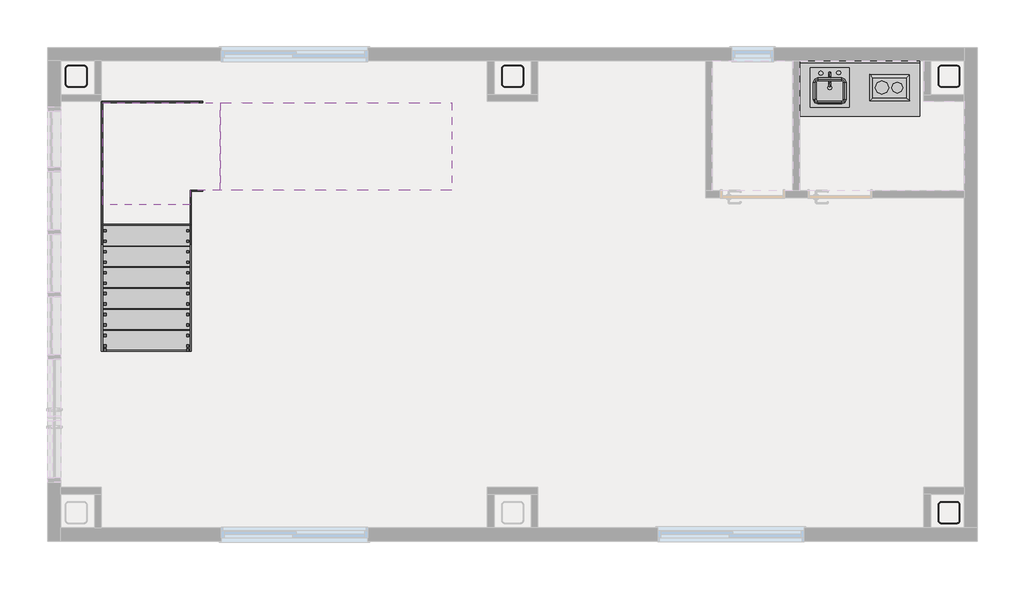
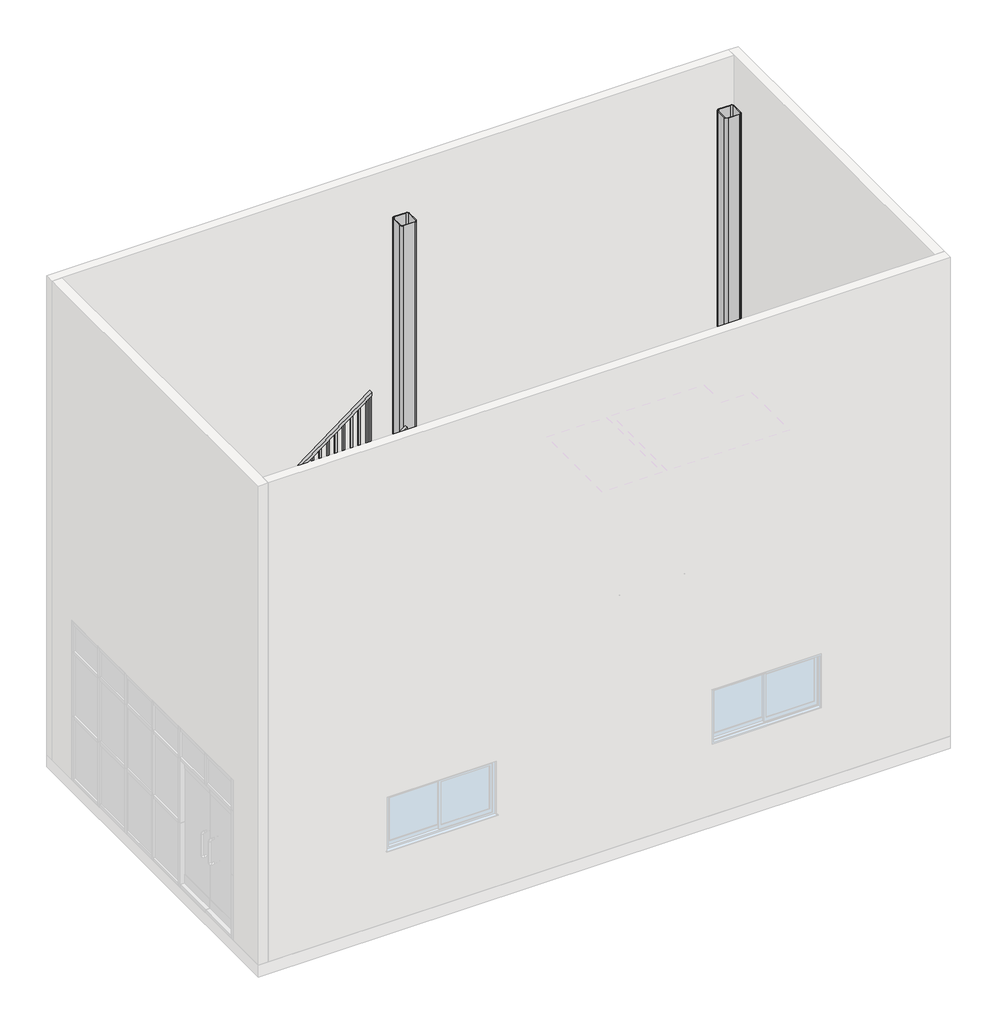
# One storey, part 2 of 2: 7 members, 4 columns, 2 proxies, 2 railings, 2 stair flights, 1 flow terminal, 1 furniture element, 1 slab.
"""IFC4 building model written with IfcOpenShell, lengths in millimetres."""

from ifc_helpers import new_model, si_unit, frame, origin, place, context, project, spatial, polyline, outline, extrude, faceted_brep, transform, mapped, element, save
from components import proxy_1372mm_902c12d3, proxy_305_x_457mm_75991893, hss250x250x12_d809ddac, flow_terminal_450_x_450mm_65598b4f, furniture_600mm_61525606, slab_593adf1e, stair_flight_b28b8e51, stair_flight_15dfc8d3

model = new_model("IFC4")

# Units and contexts
model_context = context("Model", 3, world=origin())
ifc_project = project(units=[si_unit("LENGTHUNIT", "METRE", prefix="MILLI")], contexts=[model_context])

# Site, building, storey
site = spatial("IfcSite", under=ifc_project)
building = spatial("IfcBuilding", under=site)
storey = spatial("IfcBuildingStorey", under=building, Name="1階", Elevation=200.0)

# Proxies
placement = place(None, origin())
proxy_1372mm_shape = proxy_1372mm_902c12d3(model_context)
element("IfcBuildingElementProxy", 1, Name="システムキッチン - スケール(小) - 3D : 1372mm", ObjectType="システムキッチン - スケール(小) - 3D : 1372mm", at=placement, inside=storey, context=model_context, shape_type="MappedRepresentation", body=[
    mapped(proxy_1372mm_shape, transform((3909.3742386, 2761.0382733, 200.0), x_axis=(1.0, 0.0, 0.0), y_axis=(0.0, 1.0, 0.0), z_axis=(0.0, 0.0, 1.0))),
])
proxy_305_x_457mm_shape = proxy_305_x_457mm_75991893(model_context)
element("IfcBuildingElementProxy", 2, Name="レンジ台-2 ユニット : 305 x 457mm", ObjectType="レンジ台-2 ユニット : 305 x 457mm", at=placement, inside=storey, context=model_context, shape_type="MappedRepresentation", body=[
    mapped(proxy_305_x_457mm_shape, transform((4301.3367391, 2379.8382733, 240.0), x_axis=(0.0, 1.0, 0.0), y_axis=(-1.0, 0.0, 0.0), z_axis=(0.0, 0.0, 1.0))),
])

# Columns
hss250x250x12_shape = hss250x250x12_d809ddac(model_context)
element("IfcColumn", 3, ObjectType="正方型鋼管-柱 : HSS250x250x12", at=placement, inside=storey, context=model_context, shape_type="MappedRepresentation", body=[
    mapped(hss250x250x12_shape, transform((-5047.3880564, 2586.0382733, 0.0), x_axis=(-1.0, 0.0, 0.0), y_axis=(0.0, -1.0, 0.0), z_axis=(0.0, 0.0, 1.0))),
])
element("IfcColumn", 4, ObjectType="正方型鋼管-柱 : HSS250x250x12", at=placement, inside=storey, context=model_context, shape_type="MappedRepresentation", body=[
    mapped(hss250x250x12_shape, transform((-47.3880564, 2586.0382733, 0.0), x_axis=(-1.0, 0.0, 0.0), y_axis=(0.0, -1.0, 0.0), z_axis=(0.0, 0.0, 1.0))),
])
element("IfcColumn", 5, ObjectType="正方型鋼管-柱 : HSS250x250x12", at=placement, inside=storey, context=model_context, shape_type="MappedRepresentation", body=[
    mapped(hss250x250x12_shape, transform((4952.6119436, -2413.9617267, 0.0), x_axis=(-1.0, 0.0, 0.0), y_axis=(0.0, -1.0, 0.0), z_axis=(0.0, 0.0, 1.0))),
])
element("IfcColumn", 6, ObjectType="正方型鋼管-柱 : HSS250x250x12", at=placement, inside=storey, context=model_context, shape_type="MappedRepresentation", body=[
    mapped(hss250x250x12_shape, transform((4952.6119436, 2586.0382733, 0.0), x_axis=(-1.0, 0.0, 0.0), y_axis=(0.0, -1.0, 0.0), z_axis=(0.0, 0.0, 1.0))),
])

# Flow terminal
flow_terminal_450_x_450mm_shape = flow_terminal_450_x_450mm_65598b4f(model_context)
element("IfcFlowTerminal", 7, ObjectType="シンク キッチン - アイランド : 450 x 450mm", at=placement, inside=storey, context=model_context, shape_type="MappedRepresentation", body=[
    mapped(flow_terminal_450_x_450mm_shape, transform((3569.422703, 2453.6928722, 240.0), x_axis=(1.0, 0.0, 0.0), y_axis=(0.0, 1.0, 0.0), z_axis=(0.0, 0.0, 1.0))),
])

# Furniture
furniture_600mm_shape = furniture_600mm_61525606(model_context)
element("IfcFurniture", 8, ObjectType="カウンタ シンク開口付 : 600mm", at=placement, inside=storey, context=model_context, shape_type="MappedRepresentation", body=[
    mapped(furniture_600mm_shape, transform((4442.5742386, 2761.0382733, 240.0), x_axis=(1.0, 0.0, 0.0), y_axis=(0.0, 1.0, 0.0), z_axis=(0.0, 0.0, 1.0))),
])

# Members
element("IfcMember", 9, ObjectType="側桁 - メタル - 15 mm 幅 50 mm 奥行き", at=placement, inside=storey, context=model_context, shape_type="SweptSolid", body=[
    extrude(outline(polyline([(-563.9617267, 200.0), (-563.9617267, 486.25), (1021.0382733, 1675.0), (1121.0382733, 1375.0), (-445.6283934, 200.0), (-563.9617267, 200.0)])), frame((-4757.8880564, 0.0, 0.0), z_axis=(1.0, 0.0, 0.0), x_axis=(0.0, 1.0, 0.0)), (0.0, 0.0, 1.0), 15.0),
])
element("IfcMember", 10, ObjectType="側桁 - メタル - 15 mm 幅 50 mm 奥行き", at=placement, inside=storey, context=model_context, shape_type="SweptSolid", body=[
    extrude(outline(polyline([(-563.9617267, 200.0), (-563.9617267, 486.25), (1021.0382733, 1675.0), (1121.0382733, 1375.0), (-445.6283934, 200.0), (-563.9617267, 200.0)])), frame((-3742.8880564, 0.0, 0.0), z_axis=(1.0, 0.0, 0.0), x_axis=(0.0, 1.0, 0.0)), (0.0, 0.0, 1.0), 15.0),
])
element("IfcMember", 11, ObjectType="側桁 - メタル - 15 mm 幅 50 mm 奥行き", at=placement, inside=storey, context=model_context, shape_type="SweptSolid", body=[
    extrude(outline(polyline([(1675.0, -3732.3880564), (1375.0, -3632.3880564), (3531.25, -757.3880564), (3906.25, -757.3880564), (1675.0, -3732.3880564)])), frame((0.0, 2281.5382733, 0.0), z_axis=(0.0, 1.0, 0.0), x_axis=(0.0, 0.0, 1.0)), (0.0, 0.0, 1.0), 15.0),
])
element("IfcMember", 12, ObjectType="側桁 - メタル - 15 mm 幅 50 mm 奥行き", at=placement, inside=storey, context=model_context, shape_type="SweptSolid", body=[
    extrude(outline(polyline([(1678.375, -3727.8880564), (1375.0, -3727.8880564), (1375.0, -3632.3880564), (3531.25, -757.3880564), (3906.25, -757.3880564), (1678.375, -3727.8880564)])), frame((0.0, 1266.5382733, 0.0), z_axis=(0.0, 1.0, 0.0), x_axis=(0.0, 0.0, 1.0)), (0.0, 0.0, 1.0), 15.0),
])
element("IfcMember", 13, ObjectType="側桁 - メタル - 15 mm 幅 50 mm 奥行き", at=placement, inside=storey, context=model_context, shape_type="Brep", body=[
    faceted_brep([(-3732.3880564, 2281.5382733, 1675.0), (-3732.3880564, 2296.5382733, 1675.0), (-4757.8880564, 2296.5382733, 1675.0), (-4742.8880564, 2281.5382733, 1675.0), (-3632.3880564, 2281.5382733, 1375.0), (-4742.8880564, 2281.5382733, 1375.0), (-3632.3880564, 2296.5382733, 1375.0), (-4757.8880564, 2296.5382733, 1375.0)], [[[0, 1, 2, 3]], [[4, 0, 3, 5]], [[6, 4, 5, 7]], [[1, 6, 7, 2]], [[1, 0, 4, 6]], [[2, 7, 5, 3]]]),
])
element("IfcMember", 14, ObjectType="側桁 - メタル - 15 mm 幅 50 mm 奥行き", at=placement, inside=storey, context=model_context, shape_type="Brep", body=[
    faceted_brep([(-4742.8880564, 2281.5382733, 1675.0), (-4757.8880564, 2296.5382733, 1675.0), (-4757.8880564, 1021.0382733, 1675.0), (-4742.8880564, 1021.0382733, 1675.0), (-4742.8880564, 2281.5382733, 1375.0), (-4742.8880564, 1121.0382733, 1375.0), (-4757.8880564, 2296.5382733, 1375.0), (-4757.8880564, 1121.0382733, 1375.0)], [[[0, 1, 2, 3]], [[4, 0, 3, 5]], [[6, 4, 5, 7]], [[1, 6, 7, 2]], [[1, 0, 4, 6]], [[2, 7, 5, 3]]]),
])
element("IfcMember", 15, ObjectType="側桁 - メタル - 15 mm 幅 50 mm 奥行き", at=placement, inside=storey, context=model_context, shape_type="SweptSolid", body=[
    extrude(outline(polyline([(1121.0382733, 1375.0), (1021.0382733, 1675.0), (1281.5382733, 1675.0), (1281.5382733, 1375.0), (1121.0382733, 1375.0)])), frame((-3742.8880564, 0.0, 0.0), z_axis=(1.0, 0.0, 0.0), x_axis=(0.0, 1.0, 0.0)), (0.0, 0.0, 1.0), 15.0),
])

# Railings
element("IfcRailing", 16, ObjectType="1100mm", at=placement, inside=storey, context=model_context, shape_type="SolidModel", body=[
    faceted_brep([(-3793.2880564, -563.9617267, 1480.0), (-3793.2880564, -563.9617267, 1417.5), (-3743.2880564, -563.9617267, 1417.5), (-3743.2880564, -563.9617267, 1480.0), (-3793.2880564, 1116.0382733, 2740.0), (-3793.2880564, 1132.7049399, 2690.0), (-3743.2880564, 1132.7049399, 2690.0), (-3743.2880564, 1116.0382733, 2740.0), (-3793.2880564, 1331.9382733, 2740.0), (-3793.2880564, 1331.9382733, 2690.0), (-3743.2880564, 1281.9382733, 2690.0), (-3743.2880564, 1281.9382733, 2740.0), (-3637.3880564, 1331.9382733, 2740.0), (-3620.7213898, 1331.9382733, 2690.0), (-3620.7213898, 1281.9382733, 2690.0), (-3637.3880564, 1281.9382733, 2740.0), (-3397.3880564, 1331.9382733, 2920.0), (-3367.3880564, 1331.9382733, 2880.0), (-3367.3880564, 1281.9382733, 2880.0), (-3397.3880564, 1281.9382733, 2920.0), (-757.3880564, 1331.9382733, 4900.0), (-757.3880564, 1281.9382733, 4900.0), (-757.3880564, 1281.9382733, 4837.5), (-757.3880564, 1331.9382733, 4837.5)], [[[0, 1, 2, 3]], [[1, 0, 4, 5]], [[2, 1, 5, 6]], [[3, 2, 6, 7]], [[0, 3, 7, 4]], [[5, 4, 8, 9]], [[6, 5, 9, 10]], [[7, 6, 10, 11]], [[4, 7, 11, 8]], [[9, 8, 12, 13]], [[10, 9, 13, 14]], [[11, 10, 14, 15]], [[8, 11, 15, 12]], [[13, 12, 16, 17]], [[14, 13, 17, 18]], [[15, 14, 18, 19]], [[12, 15, 19, 16]], [[20, 21, 22, 23]], [[17, 16, 20, 23]], [[18, 17, 23, 22]], [[19, 18, 22, 21]], [[16, 19, 21, 20]]]),
    extrude(outline(polyline([(4783.125, -829.8880564), (3620.0, -829.8880564), (3620.0, -804.8880564), (4801.875, -804.8880564), (4783.125, -829.8880564)])), frame((0.0, 1294.4382733, 0.0), z_axis=(0.0, 1.0, 0.0), x_axis=(0.0, 0.0, 1.0)), (0.0, 0.0, 1.0), 25.0),
    extrude(outline(polyline([(4693.125, -949.8880564), (3620.0, -949.8880564), (3620.0, -924.8880564), (4711.875, -924.8880564), (4693.125, -949.8880564)])), frame((0.0, 1294.4382733, 0.0), z_axis=(0.0, 1.0, 0.0), x_axis=(0.0, 0.0, 1.0)), (0.0, 0.0, 1.0), 25.0),
    extrude(outline(polyline([(4603.125, -1069.8880564), (3440.0, -1069.8880564), (3440.0, -1044.8880564), (4621.875, -1044.8880564), (4603.125, -1069.8880564)])), frame((0.0, 1294.4382733, 0.0), z_axis=(0.0, 1.0, 0.0), x_axis=(0.0, 0.0, 1.0)), (0.0, 0.0, 1.0), 25.0),
    extrude(outline(polyline([(4513.125, -1189.8880564), (3440.0, -1189.8880564), (3440.0, -1164.8880564), (4531.875, -1164.8880564), (4513.125, -1189.8880564)])), frame((0.0, 1294.4382733, 0.0), z_axis=(0.0, 1.0, 0.0), x_axis=(0.0, 0.0, 1.0)), (0.0, 0.0, 1.0), 25.0),
    extrude(outline(polyline([(4423.125, -1309.8880564), (3260.0, -1309.8880564), (3260.0, -1284.8880564), (4441.875, -1284.8880564), (4423.125, -1309.8880564)])), frame((0.0, 1294.4382733, 0.0), z_axis=(0.0, 1.0, 0.0), x_axis=(0.0, 0.0, 1.0)), (0.0, 0.0, 1.0), 25.0),
    extrude(outline(polyline([(4333.125, -1429.8880564), (3260.0, -1429.8880564), (3260.0, -1404.8880564), (4351.875, -1404.8880564), (4333.125, -1429.8880564)])), frame((0.0, 1294.4382733, 0.0), z_axis=(0.0, 1.0, 0.0), x_axis=(0.0, 0.0, 1.0)), (0.0, 0.0, 1.0), 25.0),
    extrude(outline(polyline([(4243.125, -1549.8880564), (3080.0, -1549.8880564), (3080.0, -1524.8880564), (4261.875, -1524.8880564), (4243.125, -1549.8880564)])), frame((0.0, 1294.4382733, 0.0), z_axis=(0.0, 1.0, 0.0), x_axis=(0.0, 0.0, 1.0)), (0.0, 0.0, 1.0), 25.0),
    extrude(outline(polyline([(4153.125, -1669.8880564), (3080.0, -1669.8880564), (3080.0, -1644.8880564), (4171.875, -1644.8880564), (4153.125, -1669.8880564)])), frame((0.0, 1294.4382733, 0.0), z_axis=(0.0, 1.0, 0.0), x_axis=(0.0, 0.0, 1.0)), (0.0, 0.0, 1.0), 25.0),
    extrude(outline(polyline([(4063.125, -1789.8880564), (2900.0, -1789.8880564), (2900.0, -1764.8880564), (4081.875, -1764.8880564), (4063.125, -1789.8880564)])), frame((0.0, 1294.4382733, 0.0), z_axis=(0.0, 1.0, 0.0), x_axis=(0.0, 0.0, 1.0)), (0.0, 0.0, 1.0), 25.0),
    extrude(outline(polyline([(3973.125, -1909.8880564), (2900.0, -1909.8880564), (2900.0, -1884.8880564), (3991.875, -1884.8880564), (3973.125, -1909.8880564)])), frame((0.0, 1294.4382733, 0.0), z_axis=(0.0, 1.0, 0.0), x_axis=(0.0, 0.0, 1.0)), (0.0, 0.0, 1.0), 25.0),
    extrude(outline(polyline([(3883.125, -2029.8880564), (2720.0, -2029.8880564), (2720.0, -2004.8880564), (3901.875, -2004.8880564), (3883.125, -2029.8880564)])), frame((0.0, 1294.4382733, 0.0), z_axis=(0.0, 1.0, 0.0), x_axis=(0.0, 0.0, 1.0)), (0.0, 0.0, 1.0), 25.0),
    extrude(outline(polyline([(3793.125, -2149.8880564), (2720.0, -2149.8880564), (2720.0, -2124.8880564), (3811.875, -2124.8880564), (3793.125, -2149.8880564)])), frame((0.0, 1294.4382733, 0.0), z_axis=(0.0, 1.0, 0.0), x_axis=(0.0, 0.0, 1.0)), (0.0, 0.0, 1.0), 25.0),
    extrude(outline(polyline([(3703.125, -2269.8880564), (2540.0, -2269.8880564), (2540.0, -2244.8880564), (3721.875, -2244.8880564), (3703.125, -2269.8880564)])), frame((0.0, 1294.4382733, 0.0), z_axis=(0.0, 1.0, 0.0), x_axis=(0.0, 0.0, 1.0)), (0.0, 0.0, 1.0), 25.0),
    extrude(outline(polyline([(3613.125, -2389.8880564), (2540.0, -2389.8880564), (2540.0, -2364.8880564), (3631.875, -2364.8880564), (3613.125, -2389.8880564)])), frame((0.0, 1294.4382733, 0.0), z_axis=(0.0, 1.0, 0.0), x_axis=(0.0, 0.0, 1.0)), (0.0, 0.0, 1.0), 25.0),
    extrude(outline(polyline([(3523.125, -2509.8880564), (2360.0, -2509.8880564), (2360.0, -2484.8880564), (3541.875, -2484.8880564), (3523.125, -2509.8880564)])), frame((0.0, 1294.4382733, 0.0), z_axis=(0.0, 1.0, 0.0), x_axis=(0.0, 0.0, 1.0)), (0.0, 0.0, 1.0), 25.0),
    extrude(outline(polyline([(3433.125, -2629.8880564), (2360.0, -2629.8880564), (2360.0, -2604.8880564), (3451.875, -2604.8880564), (3433.125, -2629.8880564)])), frame((0.0, 1294.4382733, 0.0), z_axis=(0.0, 1.0, 0.0), x_axis=(0.0, 0.0, 1.0)), (0.0, 0.0, 1.0), 25.0),
    extrude(outline(polyline([(3343.125, -2749.8880564), (2180.0, -2749.8880564), (2180.0, -2724.8880564), (3361.875, -2724.8880564), (3343.125, -2749.8880564)])), frame((0.0, 1294.4382733, 0.0), z_axis=(0.0, 1.0, 0.0), x_axis=(0.0, 0.0, 1.0)), (0.0, 0.0, 1.0), 25.0),
    extrude(outline(polyline([(3253.125, -2869.8880564), (2180.0, -2869.8880564), (2180.0, -2844.8880564), (3271.875, -2844.8880564), (3253.125, -2869.8880564)])), frame((0.0, 1294.4382733, 0.0), z_axis=(0.0, 1.0, 0.0), x_axis=(0.0, 0.0, 1.0)), (0.0, 0.0, 1.0), 25.0),
    extrude(outline(polyline([(3163.125, -2989.8880564), (2000.0, -2989.8880564), (2000.0, -2964.8880564), (3181.875, -2964.8880564), (3163.125, -2989.8880564)])), frame((0.0, 1294.4382733, 0.0), z_axis=(0.0, 1.0, 0.0), x_axis=(0.0, 0.0, 1.0)), (0.0, 0.0, 1.0), 25.0),
    extrude(outline(polyline([(3073.125, -3109.8880564), (2000.0, -3109.8880564), (2000.0, -3084.8880564), (3091.875, -3084.8880564), (3073.125, -3109.8880564)])), frame((0.0, 1294.4382733, 0.0), z_axis=(0.0, 1.0, 0.0), x_axis=(0.0, 0.0, 1.0)), (0.0, 0.0, 1.0), 25.0),
    extrude(outline(polyline([(2983.125, -3229.8880564), (1820.0, -3229.8880564), (1820.0, -3204.8880564), (3001.875, -3204.8880564), (2983.125, -3229.8880564)])), frame((0.0, 1294.4382733, 0.0), z_axis=(0.0, 1.0, 0.0), x_axis=(0.0, 0.0, 1.0)), (0.0, 0.0, 1.0), 25.0),
    extrude(outline(polyline([(2893.125, -3349.8880564), (1820.0, -3349.8880564), (1820.0, -3324.8880564), (2911.875, -3324.8880564), (2893.125, -3349.8880564)])), frame((0.0, 1294.4382733, 0.0), z_axis=(0.0, 1.0, 0.0), x_axis=(0.0, 0.0, 1.0)), (0.0, 0.0, 1.0), 25.0),
    extrude(outline(polyline([(2794.95, -3480.7880564), (1640.0, -3480.7880564), (1640.0, -3455.7880564), (2813.7, -3455.7880564), (2794.95, -3480.7880564)])), frame((0.0, 1294.4382733, 0.0), z_axis=(0.0, 1.0, 0.0), x_axis=(0.0, 0.0, 1.0)), (0.0, 0.0, 1.0), 25.0),
    extrude(outline(polyline([(2704.95, -3600.7880564), (1640.0, -3600.7880564), (1640.0, -3575.7880564), (2723.7, -3575.7880564), (2704.95, -3600.7880564)])), frame((0.0, 1294.4382733, 0.0), z_axis=(0.0, 1.0, 0.0), x_axis=(0.0, 0.0, 1.0)), (0.0, 0.0, 1.0), 25.0),
    extrude(outline(polyline([(-3720.7880564, 1294.4382733), (-3720.7880564, 1319.4382733), (-3695.7880564, 1319.4382733), (-3695.7880564, 1294.4382733), (-3720.7880564, 1294.4382733)])), frame((0.0, 0.0, 1640.0), z_axis=(0.0, 0.0, 1.0), x_axis=(1.0, 0.0, 0.0)), (0.0, 0.0, 1.0), 1050.0),
    extrude(outline(polyline([(-3755.7880564, 1283.5382733), (-3780.7880564, 1283.5382733), (-3780.7880564, 1308.5382733), (-3755.7880564, 1308.5382733), (-3755.7880564, 1283.5382733)])), frame((0.0, 0.0, 1640.0), z_axis=(0.0, 0.0, 1.0), x_axis=(1.0, 0.0, 0.0)), (0.0, 0.0, 1.0), 1050.0),
    extrude(outline(polyline([(-3755.7880564, 1163.5382733), (-3780.7880564, 1163.5382733), (-3780.7880564, 1188.5382733), (-3755.7880564, 1188.5382733), (-3755.7880564, 1163.5382733)])), frame((0.0, 0.0, 1640.0), z_axis=(0.0, 0.0, 1.0), x_axis=(1.0, 0.0, 0.0)), (0.0, 0.0, 1.0), 1050.0),
    extrude(outline(polyline([(1043.5382733, 1460.0), (1043.5382733, 2623.125), (1068.5382733, 2641.875), (1068.5382733, 1460.0), (1043.5382733, 1460.0)])), frame((-3780.7880564, 0.0, 0.0), z_axis=(1.0, 0.0, 0.0), x_axis=(0.0, 1.0, 0.0)), (0.0, 0.0, 1.0), 25.0),
    extrude(outline(polyline([(923.5382733, 1460.0), (923.5382733, 2533.125), (948.5382733, 2551.875), (948.5382733, 1460.0), (923.5382733, 1460.0)])), frame((-3780.7880564, 0.0, 0.0), z_axis=(1.0, 0.0, 0.0), x_axis=(0.0, 1.0, 0.0)), (0.0, 0.0, 1.0), 25.0),
    extrude(outline(polyline([(803.5382733, 1280.0), (803.5382733, 2443.125), (828.5382733, 2461.875), (828.5382733, 1280.0), (803.5382733, 1280.0)])), frame((-3780.7880564, 0.0, 0.0), z_axis=(1.0, 0.0, 0.0), x_axis=(0.0, 1.0, 0.0)), (0.0, 0.0, 1.0), 25.0),
    extrude(outline(polyline([(683.5382733, 1280.0), (683.5382733, 2353.125), (708.5382733, 2371.875), (708.5382733, 1280.0), (683.5382733, 1280.0)])), frame((-3780.7880564, 0.0, 0.0), z_axis=(1.0, 0.0, 0.0), x_axis=(0.0, 1.0, 0.0)), (0.0, 0.0, 1.0), 25.0),
    extrude(outline(polyline([(563.5382733, 1100.0), (563.5382733, 2263.125), (588.5382733, 2281.875), (588.5382733, 1100.0), (563.5382733, 1100.0)])), frame((-3780.7880564, 0.0, 0.0), z_axis=(1.0, 0.0, 0.0), x_axis=(0.0, 1.0, 0.0)), (0.0, 0.0, 1.0), 25.0),
    extrude(outline(polyline([(443.5382733, 1100.0), (443.5382733, 2173.125), (468.5382733, 2191.875), (468.5382733, 1100.0), (443.5382733, 1100.0)])), frame((-3780.7880564, 0.0, 0.0), z_axis=(1.0, 0.0, 0.0), x_axis=(0.0, 1.0, 0.0)), (0.0, 0.0, 1.0), 25.0),
    extrude(outline(polyline([(323.5382733, 920.0), (323.5382733, 2083.125), (348.5382733, 2101.875), (348.5382733, 920.0), (323.5382733, 920.0)])), frame((-3780.7880564, 0.0, 0.0), z_axis=(1.0, 0.0, 0.0), x_axis=(0.0, 1.0, 0.0)), (0.0, 0.0, 1.0), 25.0),
    extrude(outline(polyline([(203.5382733, 920.0), (203.5382733, 1993.125), (228.5382733, 2011.875), (228.5382733, 920.0), (203.5382733, 920.0)])), frame((-3780.7880564, 0.0, 0.0), z_axis=(1.0, 0.0, 0.0), x_axis=(0.0, 1.0, 0.0)), (0.0, 0.0, 1.0), 25.0),
    extrude(outline(polyline([(83.5382733, 740.0), (83.5382733, 1903.125), (108.5382733, 1921.875), (108.5382733, 740.0), (83.5382733, 740.0)])), frame((-3780.7880564, 0.0, 0.0), z_axis=(1.0, 0.0, 0.0), x_axis=(0.0, 1.0, 0.0)), (0.0, 0.0, 1.0), 25.0),
    extrude(outline(polyline([(-36.4617267, 740.0), (-36.4617267, 1813.125), (-11.4617267, 1831.875), (-11.4617267, 740.0), (-36.4617267, 740.0)])), frame((-3780.7880564, 0.0, 0.0), z_axis=(1.0, 0.0, 0.0), x_axis=(0.0, 1.0, 0.0)), (0.0, 0.0, 1.0), 25.0),
    extrude(outline(polyline([(-156.4617267, 560.0), (-156.4617267, 1723.125), (-131.4617267, 1741.875), (-131.4617267, 560.0), (-156.4617267, 560.0)])), frame((-3780.7880564, 0.0, 0.0), z_axis=(1.0, 0.0, 0.0), x_axis=(0.0, 1.0, 0.0)), (0.0, 0.0, 1.0), 25.0),
    extrude(outline(polyline([(-276.4617267, 560.0), (-276.4617267, 1633.125), (-251.4617267, 1651.875), (-251.4617267, 560.0), (-276.4617267, 560.0)])), frame((-3780.7880564, 0.0, 0.0), z_axis=(1.0, 0.0, 0.0), x_axis=(0.0, 1.0, 0.0)), (0.0, 0.0, 1.0), 25.0),
    extrude(outline(polyline([(-396.4617267, 380.0), (-396.4617267, 1543.125), (-371.4617267, 1561.875), (-371.4617267, 380.0), (-396.4617267, 380.0)])), frame((-3780.7880564, 0.0, 0.0), z_axis=(1.0, 0.0, 0.0), x_axis=(0.0, 1.0, 0.0)), (0.0, 0.0, 1.0), 25.0),
    extrude(outline(polyline([(-516.4617267, 380.0), (-516.4617267, 1453.125), (-491.4617267, 1471.875), (-491.4617267, 380.0), (-516.4617267, 380.0)])), frame((-3780.7880564, 0.0, 0.0), z_axis=(1.0, 0.0, 0.0), x_axis=(0.0, 1.0, 0.0)), (0.0, 0.0, 1.0), 25.0),
    extrude(outline(polyline([(2848.125, -3409.8880564), (1640.0, -3409.8880564), (1640.0, -3384.8880564), (2866.875, -3384.8880564), (2848.125, -3409.8880564)])), frame((0.0, 1294.4382733, 0.0), z_axis=(0.0, 1.0, 0.0), x_axis=(0.0, 0.0, 1.0)), (0.0, 0.0, 1.0), 25.0),
    extrude(outline(polyline([(-3755.7880564, 1294.4382733), (-3780.7880564, 1294.4382733), (-3780.7880564, 1319.4382733), (-3755.7880564, 1319.4382733), (-3755.7880564, 1294.4382733)])), frame((0.0, 0.0, 1640.0), z_axis=(0.0, 0.0, 1.0), x_axis=(1.0, 0.0, 0.0)), (0.0, 0.0, 1.0), 1050.0),
    extrude(outline(polyline([(1103.5382733, 1640.0), (1103.5382733, 2668.125), (1128.5382733, 2686.875), (1128.5382733, 1640.0), (1103.5382733, 1640.0)])), frame((-3780.7880564, 0.0, 0.0), z_axis=(1.0, 0.0, 0.0), x_axis=(0.0, 1.0, 0.0)), (0.0, 0.0, 1.0), 25.0),
    extrude(outline(polyline([(4818.75, -782.3880564), (3620.0, -782.3880564), (3620.0, -757.3880564), (4837.5, -757.3880564), (4818.75, -782.3880564)])), frame((0.0, 1294.4382733, 0.0), z_axis=(0.0, 1.0, 0.0), x_axis=(0.0, 0.0, 1.0)), (0.0, 0.0, 1.0), 25.0),
    extrude(outline(polyline([(-563.9617267, 380.0), (-563.9617267, 1417.5), (-538.9617267, 1436.25), (-538.9617267, 380.0), (-563.9617267, 380.0)])), frame((-3780.7880564, 0.0, 0.0), z_axis=(1.0, 0.0, 0.0), x_axis=(0.0, 1.0, 0.0)), (0.0, 0.0, 1.0), 25.0),
])
element("IfcRailing", 17, ObjectType="1100mm", at=placement, inside=storey, context=model_context, shape_type="SolidModel", body=[
    faceted_brep([(-4742.4880564, -563.9617267, 1480.0), (-4742.4880564, -563.9617267, 1417.5), (-4692.4880564, -563.9617267, 1417.5), (-4692.4880564, -563.9617267, 1480.0), (-4742.4880564, 1116.0382733, 2740.0), (-4742.4880564, 1132.7049399, 2690.0), (-4692.4880564, 1132.7049399, 2690.0), (-4692.4880564, 1116.0382733, 2740.0), (-4742.4880564, 2281.1382733, 2740.0), (-4742.4880564, 2281.1382733, 2690.0), (-4692.4880564, 2231.1382733, 2690.0), (-4692.4880564, 2231.1382733, 2740.0), (-3637.3880564, 2281.1382733, 2740.0), (-3620.7213898, 2281.1382733, 2690.0), (-3620.7213898, 2231.1382733, 2690.0), (-3637.3880564, 2231.1382733, 2740.0), (-3397.3880564, 2281.1382733, 2920.0), (-3367.3880564, 2281.1382733, 2880.0), (-3367.3880564, 2231.1382733, 2880.0), (-3397.3880564, 2231.1382733, 2920.0), (-757.3880564, 2281.1382733, 4900.0), (-757.3880564, 2231.1382733, 4900.0), (-757.3880564, 2231.1382733, 4837.5), (-757.3880564, 2281.1382733, 4837.5)], [[[0, 1, 2, 3]], [[1, 0, 4, 5]], [[2, 1, 5, 6]], [[3, 2, 6, 7]], [[0, 3, 7, 4]], [[5, 4, 8, 9]], [[6, 5, 9, 10]], [[7, 6, 10, 11]], [[4, 7, 11, 8]], [[9, 8, 12, 13]], [[10, 9, 13, 14]], [[11, 10, 14, 15]], [[8, 11, 15, 12]], [[13, 12, 16, 17]], [[14, 13, 17, 18]], [[15, 14, 18, 19]], [[12, 15, 19, 16]], [[20, 21, 22, 23]], [[17, 16, 20, 23]], [[18, 17, 23, 22]], [[19, 18, 22, 21]], [[16, 19, 21, 20]]]),
    extrude(outline(polyline([(3620.0, -829.8880564), (3620.0, -804.8880564), (4801.875, -804.8880564), (4783.125, -829.8880564), (3620.0, -829.8880564)])), frame((0.0, 2243.6382733, 0.0), z_axis=(0.0, 1.0, 0.0), x_axis=(0.0, 0.0, 1.0)), (0.0, 0.0, 1.0), 25.0),
    extrude(outline(polyline([(3620.0, -949.8880564), (3620.0, -924.8880564), (4711.875, -924.8880564), (4693.125, -949.8880564), (3620.0, -949.8880564)])), frame((0.0, 2243.6382733, 0.0), z_axis=(0.0, 1.0, 0.0), x_axis=(0.0, 0.0, 1.0)), (0.0, 0.0, 1.0), 25.0),
    extrude(outline(polyline([(3440.0, -1069.8880564), (3440.0, -1044.8880564), (4621.875, -1044.8880564), (4603.125, -1069.8880564), (3440.0, -1069.8880564)])), frame((0.0, 2243.6382733, 0.0), z_axis=(0.0, 1.0, 0.0), x_axis=(0.0, 0.0, 1.0)), (0.0, 0.0, 1.0), 25.0),
    extrude(outline(polyline([(3440.0, -1189.8880564), (3440.0, -1164.8880564), (4531.875, -1164.8880564), (4513.125, -1189.8880564), (3440.0, -1189.8880564)])), frame((0.0, 2243.6382733, 0.0), z_axis=(0.0, 1.0, 0.0), x_axis=(0.0, 0.0, 1.0)), (0.0, 0.0, 1.0), 25.0),
    extrude(outline(polyline([(3260.0, -1309.8880564), (3260.0, -1284.8880564), (4441.875, -1284.8880564), (4423.125, -1309.8880564), (3260.0, -1309.8880564)])), frame((0.0, 2243.6382733, 0.0), z_axis=(0.0, 1.0, 0.0), x_axis=(0.0, 0.0, 1.0)), (0.0, 0.0, 1.0), 25.0),
    extrude(outline(polyline([(3260.0, -1429.8880564), (3260.0, -1404.8880564), (4351.875, -1404.8880564), (4333.125, -1429.8880564), (3260.0, -1429.8880564)])), frame((0.0, 2243.6382733, 0.0), z_axis=(0.0, 1.0, 0.0), x_axis=(0.0, 0.0, 1.0)), (0.0, 0.0, 1.0), 25.0),
    extrude(outline(polyline([(3080.0, -1549.8880564), (3080.0, -1524.8880564), (4261.875, -1524.8880564), (4243.125, -1549.8880564), (3080.0, -1549.8880564)])), frame((0.0, 2243.6382733, 0.0), z_axis=(0.0, 1.0, 0.0), x_axis=(0.0, 0.0, 1.0)), (0.0, 0.0, 1.0), 25.0),
    extrude(outline(polyline([(3080.0, -1669.8880564), (3080.0, -1644.8880564), (4171.875, -1644.8880564), (4153.125, -1669.8880564), (3080.0, -1669.8880564)])), frame((0.0, 2243.6382733, 0.0), z_axis=(0.0, 1.0, 0.0), x_axis=(0.0, 0.0, 1.0)), (0.0, 0.0, 1.0), 25.0),
    extrude(outline(polyline([(2900.0, -1789.8880564), (2900.0, -1764.8880564), (4081.875, -1764.8880564), (4063.125, -1789.8880564), (2900.0, -1789.8880564)])), frame((0.0, 2243.6382733, 0.0), z_axis=(0.0, 1.0, 0.0), x_axis=(0.0, 0.0, 1.0)), (0.0, 0.0, 1.0), 25.0),
    extrude(outline(polyline([(2900.0, -1909.8880564), (2900.0, -1884.8880564), (3991.875, -1884.8880564), (3973.125, -1909.8880564), (2900.0, -1909.8880564)])), frame((0.0, 2243.6382733, 0.0), z_axis=(0.0, 1.0, 0.0), x_axis=(0.0, 0.0, 1.0)), (0.0, 0.0, 1.0), 25.0),
    extrude(outline(polyline([(2720.0, -2029.8880564), (2720.0, -2004.8880564), (3901.875, -2004.8880564), (3883.125, -2029.8880564), (2720.0, -2029.8880564)])), frame((0.0, 2243.6382733, 0.0), z_axis=(0.0, 1.0, 0.0), x_axis=(0.0, 0.0, 1.0)), (0.0, 0.0, 1.0), 25.0),
    extrude(outline(polyline([(2720.0, -2149.8880564), (2720.0, -2124.8880564), (3811.875, -2124.8880564), (3793.125, -2149.8880564), (2720.0, -2149.8880564)])), frame((0.0, 2243.6382733, 0.0), z_axis=(0.0, 1.0, 0.0), x_axis=(0.0, 0.0, 1.0)), (0.0, 0.0, 1.0), 25.0),
    extrude(outline(polyline([(2540.0, -2269.8880564), (2540.0, -2244.8880564), (3721.875, -2244.8880564), (3703.125, -2269.8880564), (2540.0, -2269.8880564)])), frame((0.0, 2243.6382733, 0.0), z_axis=(0.0, 1.0, 0.0), x_axis=(0.0, 0.0, 1.0)), (0.0, 0.0, 1.0), 25.0),
    extrude(outline(polyline([(2540.0, -2389.8880564), (2540.0, -2364.8880564), (3631.875, -2364.8880564), (3613.125, -2389.8880564), (2540.0, -2389.8880564)])), frame((0.0, 2243.6382733, 0.0), z_axis=(0.0, 1.0, 0.0), x_axis=(0.0, 0.0, 1.0)), (0.0, 0.0, 1.0), 25.0),
    extrude(outline(polyline([(2360.0, -2509.8880564), (2360.0, -2484.8880564), (3541.875, -2484.8880564), (3523.125, -2509.8880564), (2360.0, -2509.8880564)])), frame((0.0, 2243.6382733, 0.0), z_axis=(0.0, 1.0, 0.0), x_axis=(0.0, 0.0, 1.0)), (0.0, 0.0, 1.0), 25.0),
    extrude(outline(polyline([(2360.0, -2629.8880564), (2360.0, -2604.8880564), (3451.875, -2604.8880564), (3433.125, -2629.8880564), (2360.0, -2629.8880564)])), frame((0.0, 2243.6382733, 0.0), z_axis=(0.0, 1.0, 0.0), x_axis=(0.0, 0.0, 1.0)), (0.0, 0.0, 1.0), 25.0),
    extrude(outline(polyline([(2180.0, -2749.8880564), (2180.0, -2724.8880564), (3361.875, -2724.8880564), (3343.125, -2749.8880564), (2180.0, -2749.8880564)])), frame((0.0, 2243.6382733, 0.0), z_axis=(0.0, 1.0, 0.0), x_axis=(0.0, 0.0, 1.0)), (0.0, 0.0, 1.0), 25.0),
    extrude(outline(polyline([(2180.0, -2869.8880564), (2180.0, -2844.8880564), (3271.875, -2844.8880564), (3253.125, -2869.8880564), (2180.0, -2869.8880564)])), frame((0.0, 2243.6382733, 0.0), z_axis=(0.0, 1.0, 0.0), x_axis=(0.0, 0.0, 1.0)), (0.0, 0.0, 1.0), 25.0),
    extrude(outline(polyline([(2000.0, -2989.8880564), (2000.0, -2964.8880564), (3181.875, -2964.8880564), (3163.125, -2989.8880564), (2000.0, -2989.8880564)])), frame((0.0, 2243.6382733, 0.0), z_axis=(0.0, 1.0, 0.0), x_axis=(0.0, 0.0, 1.0)), (0.0, 0.0, 1.0), 25.0),
    extrude(outline(polyline([(2000.0, -3109.8880564), (2000.0, -3084.8880564), (3091.875, -3084.8880564), (3073.125, -3109.8880564), (2000.0, -3109.8880564)])), frame((0.0, 2243.6382733, 0.0), z_axis=(0.0, 1.0, 0.0), x_axis=(0.0, 0.0, 1.0)), (0.0, 0.0, 1.0), 25.0),
    extrude(outline(polyline([(1820.0, -3229.8880564), (1820.0, -3204.8880564), (3001.875, -3204.8880564), (2983.125, -3229.8880564), (1820.0, -3229.8880564)])), frame((0.0, 2243.6382733, 0.0), z_axis=(0.0, 1.0, 0.0), x_axis=(0.0, 0.0, 1.0)), (0.0, 0.0, 1.0), 25.0),
    extrude(outline(polyline([(1820.0, -3349.8880564), (1820.0, -3324.8880564), (2911.875, -3324.8880564), (2893.125, -3349.8880564), (1820.0, -3349.8880564)])), frame((0.0, 2243.6382733, 0.0), z_axis=(0.0, 1.0, 0.0), x_axis=(0.0, 0.0, 1.0)), (0.0, 0.0, 1.0), 25.0),
    extrude(outline(polyline([(1640.0, -3469.9880564), (1640.0, -3444.9880564), (2821.8, -3444.9880564), (2803.05, -3469.9880564), (1640.0, -3469.9880564)])), frame((0.0, 2243.6382733, 0.0), z_axis=(0.0, 1.0, 0.0), x_axis=(0.0, 0.0, 1.0)), (0.0, 0.0, 1.0), 25.0),
    extrude(outline(polyline([(1640.0, -3589.9880564), (1640.0, -3564.9880564), (2731.8, -3564.9880564), (2713.05, -3589.9880564), (1640.0, -3589.9880564)])), frame((0.0, 2243.6382733, 0.0), z_axis=(0.0, 1.0, 0.0), x_axis=(0.0, 0.0, 1.0)), (0.0, 0.0, 1.0), 25.0),
    extrude(outline(polyline([(-3709.9880564, 2268.6382733), (-3684.9880564, 2268.6382733), (-3684.9880564, 2243.6382733), (-3709.9880564, 2243.6382733), (-3709.9880564, 2268.6382733)])), frame((0.0, 0.0, 1640.0), z_axis=(0.0, 0.0, 1.0), x_axis=(1.0, 0.0, 0.0)), (0.0, 0.0, 1.0), 1050.0),
    extrude(outline(polyline([(-3829.9880564, 2268.6382733), (-3804.9880564, 2268.6382733), (-3804.9880564, 2243.6382733), (-3829.9880564, 2243.6382733), (-3829.9880564, 2268.6382733)])), frame((0.0, 0.0, 1640.0), z_axis=(0.0, 0.0, 1.0), x_axis=(1.0, 0.0, 0.0)), (0.0, 0.0, 1.0), 1050.0),
    extrude(outline(polyline([(-3949.9880564, 2268.6382733), (-3924.9880564, 2268.6382733), (-3924.9880564, 2243.6382733), (-3949.9880564, 2243.6382733), (-3949.9880564, 2268.6382733)])), frame((0.0, 0.0, 1640.0), z_axis=(0.0, 0.0, 1.0), x_axis=(1.0, 0.0, 0.0)), (0.0, 0.0, 1.0), 1050.0),
    extrude(outline(polyline([(-4069.9880564, 2268.6382733), (-4044.9880564, 2268.6382733), (-4044.9880564, 2243.6382733), (-4069.9880564, 2243.6382733), (-4069.9880564, 2268.6382733)])), frame((0.0, 0.0, 1640.0), z_axis=(0.0, 0.0, 1.0), x_axis=(1.0, 0.0, 0.0)), (0.0, 0.0, 1.0), 1050.0),
    extrude(outline(polyline([(-4189.9880564, 2268.6382733), (-4164.9880564, 2268.6382733), (-4164.9880564, 2243.6382733), (-4189.9880564, 2243.6382733), (-4189.9880564, 2268.6382733)])), frame((0.0, 0.0, 1640.0), z_axis=(0.0, 0.0, 1.0), x_axis=(1.0, 0.0, 0.0)), (0.0, 0.0, 1.0), 1050.0),
    extrude(outline(polyline([(-4309.9880564, 2268.6382733), (-4284.9880564, 2268.6382733), (-4284.9880564, 2243.6382733), (-4309.9880564, 2243.6382733), (-4309.9880564, 2268.6382733)])), frame((0.0, 0.0, 1640.0), z_axis=(0.0, 0.0, 1.0), x_axis=(1.0, 0.0, 0.0)), (0.0, 0.0, 1.0), 1050.0),
    extrude(outline(polyline([(-4429.9880564, 2268.6382733), (-4404.9880564, 2268.6382733), (-4404.9880564, 2243.6382733), (-4429.9880564, 2243.6382733), (-4429.9880564, 2268.6382733)])), frame((0.0, 0.0, 1640.0), z_axis=(0.0, 0.0, 1.0), x_axis=(1.0, 0.0, 0.0)), (0.0, 0.0, 1.0), 1050.0),
    extrude(outline(polyline([(-4549.9880564, 2268.6382733), (-4524.9880564, 2268.6382733), (-4524.9880564, 2243.6382733), (-4549.9880564, 2243.6382733), (-4549.9880564, 2268.6382733)])), frame((0.0, 0.0, 1640.0), z_axis=(0.0, 0.0, 1.0), x_axis=(1.0, 0.0, 0.0)), (0.0, 0.0, 1.0), 1050.0),
    extrude(outline(polyline([(-4669.9880564, 2268.6382733), (-4644.9880564, 2268.6382733), (-4644.9880564, 2243.6382733), (-4669.9880564, 2243.6382733), (-4669.9880564, 2268.6382733)])), frame((0.0, 0.0, 1640.0), z_axis=(0.0, 0.0, 1.0), x_axis=(1.0, 0.0, 0.0)), (0.0, 0.0, 1.0), 1050.0),
    extrude(outline(polyline([(-4729.9880564, 2243.5382733), (-4729.9880564, 2268.5382733), (-4704.9880564, 2268.5382733), (-4704.9880564, 2243.5382733), (-4729.9880564, 2243.5382733)])), frame((0.0, 0.0, 1640.0), z_axis=(0.0, 0.0, 1.0), x_axis=(1.0, 0.0, 0.0)), (0.0, 0.0, 1.0), 1050.0),
    extrude(outline(polyline([(-4729.9880564, 2123.5382733), (-4729.9880564, 2148.5382733), (-4704.9880564, 2148.5382733), (-4704.9880564, 2123.5382733), (-4729.9880564, 2123.5382733)])), frame((0.0, 0.0, 1640.0), z_axis=(0.0, 0.0, 1.0), x_axis=(1.0, 0.0, 0.0)), (0.0, 0.0, 1.0), 1050.0),
    extrude(outline(polyline([(-4729.9880564, 2003.5382733), (-4729.9880564, 2028.5382733), (-4704.9880564, 2028.5382733), (-4704.9880564, 2003.5382733), (-4729.9880564, 2003.5382733)])), frame((0.0, 0.0, 1640.0), z_axis=(0.0, 0.0, 1.0), x_axis=(1.0, 0.0, 0.0)), (0.0, 0.0, 1.0), 1050.0),
    extrude(outline(polyline([(-4729.9880564, 1883.5382733), (-4729.9880564, 1908.5382733), (-4704.9880564, 1908.5382733), (-4704.9880564, 1883.5382733), (-4729.9880564, 1883.5382733)])), frame((0.0, 0.0, 1640.0), z_axis=(0.0, 0.0, 1.0), x_axis=(1.0, 0.0, 0.0)), (0.0, 0.0, 1.0), 1050.0),
    extrude(outline(polyline([(-4729.9880564, 1763.5382733), (-4729.9880564, 1788.5382733), (-4704.9880564, 1788.5382733), (-4704.9880564, 1763.5382733), (-4729.9880564, 1763.5382733)])), frame((0.0, 0.0, 1640.0), z_axis=(0.0, 0.0, 1.0), x_axis=(1.0, 0.0, 0.0)), (0.0, 0.0, 1.0), 1050.0),
    extrude(outline(polyline([(-4729.9880564, 1643.5382733), (-4729.9880564, 1668.5382733), (-4704.9880564, 1668.5382733), (-4704.9880564, 1643.5382733), (-4729.9880564, 1643.5382733)])), frame((0.0, 0.0, 1640.0), z_axis=(0.0, 0.0, 1.0), x_axis=(1.0, 0.0, 0.0)), (0.0, 0.0, 1.0), 1050.0),
    extrude(outline(polyline([(-4729.9880564, 1523.5382733), (-4729.9880564, 1548.5382733), (-4704.9880564, 1548.5382733), (-4704.9880564, 1523.5382733), (-4729.9880564, 1523.5382733)])), frame((0.0, 0.0, 1640.0), z_axis=(0.0, 0.0, 1.0), x_axis=(1.0, 0.0, 0.0)), (0.0, 0.0, 1.0), 1050.0),
    extrude(outline(polyline([(-4729.9880564, 1403.5382733), (-4729.9880564, 1428.5382733), (-4704.9880564, 1428.5382733), (-4704.9880564, 1403.5382733), (-4729.9880564, 1403.5382733)])), frame((0.0, 0.0, 1640.0), z_axis=(0.0, 0.0, 1.0), x_axis=(1.0, 0.0, 0.0)), (0.0, 0.0, 1.0), 1050.0),
    extrude(outline(polyline([(-4729.9880564, 1283.5382733), (-4729.9880564, 1308.5382733), (-4704.9880564, 1308.5382733), (-4704.9880564, 1283.5382733), (-4729.9880564, 1283.5382733)])), frame((0.0, 0.0, 1640.0), z_axis=(0.0, 0.0, 1.0), x_axis=(1.0, 0.0, 0.0)), (0.0, 0.0, 1.0), 1050.0),
    extrude(outline(polyline([(-4729.9880564, 1163.5382733), (-4729.9880564, 1188.5382733), (-4704.9880564, 1188.5382733), (-4704.9880564, 1163.5382733), (-4729.9880564, 1163.5382733)])), frame((0.0, 0.0, 1640.0), z_axis=(0.0, 0.0, 1.0), x_axis=(1.0, 0.0, 0.0)), (0.0, 0.0, 1.0), 1050.0),
    extrude(outline(polyline([(1043.5382733, 2623.125), (1068.5382733, 2641.875), (1068.5382733, 1460.0), (1043.5382733, 1460.0), (1043.5382733, 2623.125)])), frame((-4729.9880564, 0.0, 0.0), z_axis=(1.0, 0.0, 0.0), x_axis=(0.0, 1.0, 0.0)), (0.0, 0.0, 1.0), 25.0),
    extrude(outline(polyline([(923.5382733, 2533.125), (948.5382733, 2551.875), (948.5382733, 1460.0), (923.5382733, 1460.0), (923.5382733, 2533.125)])), frame((-4729.9880564, 0.0, 0.0), z_axis=(1.0, 0.0, 0.0), x_axis=(0.0, 1.0, 0.0)), (0.0, 0.0, 1.0), 25.0),
    extrude(outline(polyline([(803.5382733, 2443.125), (828.5382733, 2461.875), (828.5382733, 1280.0), (803.5382733, 1280.0), (803.5382733, 2443.125)])), frame((-4729.9880564, 0.0, 0.0), z_axis=(1.0, 0.0, 0.0), x_axis=(0.0, 1.0, 0.0)), (0.0, 0.0, 1.0), 25.0),
    extrude(outline(polyline([(683.5382733, 2353.125), (708.5382733, 2371.875), (708.5382733, 1280.0), (683.5382733, 1280.0), (683.5382733, 2353.125)])), frame((-4729.9880564, 0.0, 0.0), z_axis=(1.0, 0.0, 0.0), x_axis=(0.0, 1.0, 0.0)), (0.0, 0.0, 1.0), 25.0),
    extrude(outline(polyline([(563.5382733, 2263.125), (588.5382733, 2281.875), (588.5382733, 1100.0), (563.5382733, 1100.0), (563.5382733, 2263.125)])), frame((-4729.9880564, 0.0, 0.0), z_axis=(1.0, 0.0, 0.0), x_axis=(0.0, 1.0, 0.0)), (0.0, 0.0, 1.0), 25.0),
    extrude(outline(polyline([(443.5382733, 2173.125), (468.5382733, 2191.875), (468.5382733, 1100.0), (443.5382733, 1100.0), (443.5382733, 2173.125)])), frame((-4729.9880564, 0.0, 0.0), z_axis=(1.0, 0.0, 0.0), x_axis=(0.0, 1.0, 0.0)), (0.0, 0.0, 1.0), 25.0),
    extrude(outline(polyline([(323.5382733, 2083.125), (348.5382733, 2101.875), (348.5382733, 920.0), (323.5382733, 920.0), (323.5382733, 2083.125)])), frame((-4729.9880564, 0.0, 0.0), z_axis=(1.0, 0.0, 0.0), x_axis=(0.0, 1.0, 0.0)), (0.0, 0.0, 1.0), 25.0),
    extrude(outline(polyline([(203.5382733, 1993.125), (228.5382733, 2011.875), (228.5382733, 920.0), (203.5382733, 920.0), (203.5382733, 1993.125)])), frame((-4729.9880564, 0.0, 0.0), z_axis=(1.0, 0.0, 0.0), x_axis=(0.0, 1.0, 0.0)), (0.0, 0.0, 1.0), 25.0),
    extrude(outline(polyline([(83.5382733, 1903.125), (108.5382733, 1921.875), (108.5382733, 740.0), (83.5382733, 740.0), (83.5382733, 1903.125)])), frame((-4729.9880564, 0.0, 0.0), z_axis=(1.0, 0.0, 0.0), x_axis=(0.0, 1.0, 0.0)), (0.0, 0.0, 1.0), 25.0),
    extrude(outline(polyline([(-36.4617267, 1813.125), (-11.4617267, 1831.875), (-11.4617267, 740.0), (-36.4617267, 740.0), (-36.4617267, 1813.125)])), frame((-4729.9880564, 0.0, 0.0), z_axis=(1.0, 0.0, 0.0), x_axis=(0.0, 1.0, 0.0)), (0.0, 0.0, 1.0), 25.0),
    extrude(outline(polyline([(-156.4617267, 1723.125), (-131.4617267, 1741.875), (-131.4617267, 560.0), (-156.4617267, 560.0), (-156.4617267, 1723.125)])), frame((-4729.9880564, 0.0, 0.0), z_axis=(1.0, 0.0, 0.0), x_axis=(0.0, 1.0, 0.0)), (0.0, 0.0, 1.0), 25.0),
    extrude(outline(polyline([(-276.4617267, 1633.125), (-251.4617267, 1651.875), (-251.4617267, 560.0), (-276.4617267, 560.0), (-276.4617267, 1633.125)])), frame((-4729.9880564, 0.0, 0.0), z_axis=(1.0, 0.0, 0.0), x_axis=(0.0, 1.0, 0.0)), (0.0, 0.0, 1.0), 25.0),
    extrude(outline(polyline([(-396.4617267, 1543.125), (-371.4617267, 1561.875), (-371.4617267, 380.0), (-396.4617267, 380.0), (-396.4617267, 1543.125)])), frame((-4729.9880564, 0.0, 0.0), z_axis=(1.0, 0.0, 0.0), x_axis=(0.0, 1.0, 0.0)), (0.0, 0.0, 1.0), 25.0),
    extrude(outline(polyline([(-516.4617267, 1453.125), (-491.4617267, 1471.875), (-491.4617267, 380.0), (-516.4617267, 380.0), (-516.4617267, 1453.125)])), frame((-4729.9880564, 0.0, 0.0), z_axis=(1.0, 0.0, 0.0), x_axis=(0.0, 1.0, 0.0)), (0.0, 0.0, 1.0), 25.0),
    extrude(outline(polyline([(1640.0, -3409.8880564), (1640.0, -3384.8880564), (2866.875, -3384.8880564), (2848.125, -3409.8880564), (1640.0, -3409.8880564)])), frame((0.0, 2243.6382733, 0.0), z_axis=(0.0, 1.0, 0.0), x_axis=(0.0, 0.0, 1.0)), (0.0, 0.0, 1.0), 25.0),
    extrude(outline(polyline([(-4729.9880564, 2243.6382733), (-4729.9880564, 2268.6382733), (-4704.9880564, 2268.6382733), (-4704.9880564, 2243.6382733), (-4729.9880564, 2243.6382733)])), frame((0.0, 0.0, 1640.0), z_axis=(0.0, 0.0, 1.0), x_axis=(1.0, 0.0, 0.0)), (0.0, 0.0, 1.0), 1050.0),
    extrude(outline(polyline([(1103.5382733, 2668.125), (1128.5382733, 2686.875), (1128.5382733, 1640.0), (1103.5382733, 1640.0), (1103.5382733, 2668.125)])), frame((-4729.9880564, 0.0, 0.0), z_axis=(1.0, 0.0, 0.0), x_axis=(0.0, 1.0, 0.0)), (0.0, 0.0, 1.0), 25.0),
    extrude(outline(polyline([(3620.0, -782.3880564), (3620.0, -757.3880564), (4837.5, -757.3880564), (4818.75, -782.3880564), (3620.0, -782.3880564)])), frame((0.0, 2243.6382733, 0.0), z_axis=(0.0, 1.0, 0.0), x_axis=(0.0, 0.0, 1.0)), (0.0, 0.0, 1.0), 25.0),
    extrude(outline(polyline([(-563.9617267, 1417.5), (-538.9617267, 1436.25), (-538.9617267, 380.0), (-563.9617267, 380.0), (-563.9617267, 1417.5)])), frame((-4729.9880564, 0.0, 0.0), z_axis=(1.0, 0.0, 0.0), x_axis=(0.0, 1.0, 0.0)), (0.0, 0.0, 1.0), 25.0),
])

# Slab
slab_shape = slab_593adf1e(model_context)
element("IfcSlab", 18, ObjectType="一体型ではない踊り場", at=placement, inside=storey, context=model_context, shape_type="MappedRepresentation", body=[
    mapped(slab_shape, transform((0.0, 0.0, 0.0), x_axis=(1.0, 0.0, 0.0), y_axis=(0.0, 1.0, 0.0), z_axis=(0.0, 0.0, 1.0))),
])

# Stair flights
stair_flight_shape = stair_flight_b28b8e51(model_context)
element("IfcStairFlight", 19, ObjectType="メタル階段 15 mm 踏み板 15 mm 蹴上げ", at=placement, inside=storey, context=model_context, shape_type="MappedRepresentation", body=[
    mapped(stair_flight_shape, transform((0.0, 0.0, 0.0), x_axis=(1.0, 0.0, 0.0), y_axis=(0.0, 1.0, 0.0), z_axis=(0.0, 0.0, 1.0))),
])
stair_flight_2_shape = stair_flight_15dfc8d3(model_context)
element("IfcStairFlight", 20, ObjectType="メタル階段 15 mm 踏み板 15 mm 蹴上げ", at=placement, inside=storey, context=model_context, shape_type="MappedRepresentation", body=[
    mapped(stair_flight_2_shape, transform((0.0, 0.0, 0.0), x_axis=(1.0, 0.0, 0.0), y_axis=(0.0, 1.0, 0.0), z_axis=(0.0, 0.0, 1.0))),
])

save(model, "model.ifc")
